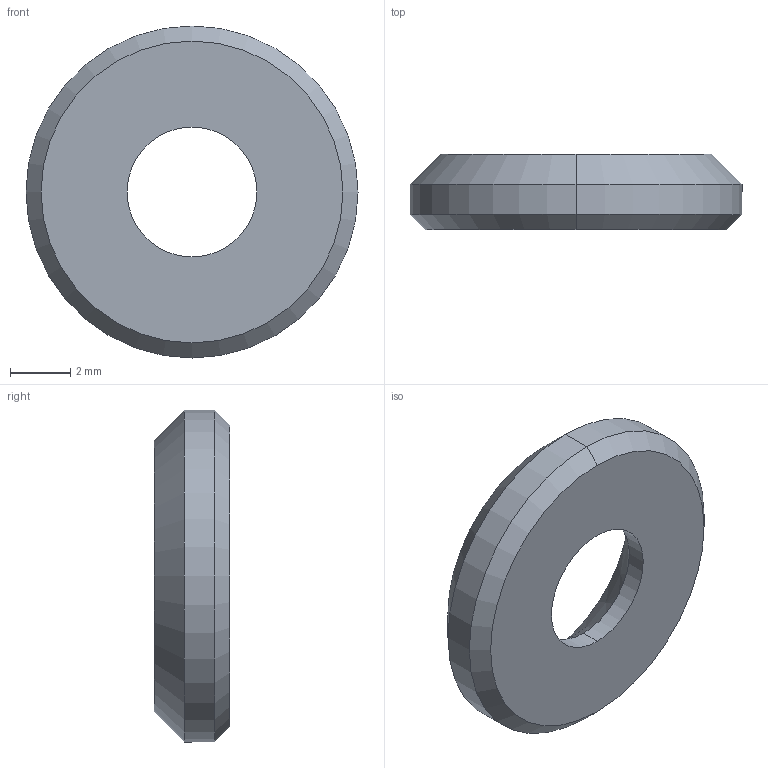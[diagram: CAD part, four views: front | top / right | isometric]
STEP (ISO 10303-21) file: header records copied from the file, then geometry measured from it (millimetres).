
FILE_DESCRIPTION (( 'STEP AP203' ), '1' );
FILE_NAME ('084.303.009.STEP', '2021-03-24T07:47:38', ( '' ), ( '' ), 'SwSTEP 2.0', 'SolidWorks 2018', '' );
FILE_SCHEMA (( 'CONFIG_CONTROL_DESIGN' ));
Length unit declared in the file: millimetre
Products named in the file (1): 084.303.009
Bounding box: 11 x 2.5 x 11 mm (x, y, z)
Volume: 151.1 mm3; surface area: 239 mm2
Topology: 1 solids, 1 shells, 12 faces, 24 edges, 14 vertices
Faces by surface type: cone 6, cylinder 4, plane 2
Entity records: 395 total; most frequent: DIRECTION 64, CARTESIAN_POINT 51, ORIENTED_EDGE 48, AXIS2_PLACEMENT_3D 27, EDGE_CURVE 24, VERTEX_POINT 14, CIRCLE 14, EDGE_LOOP 14
